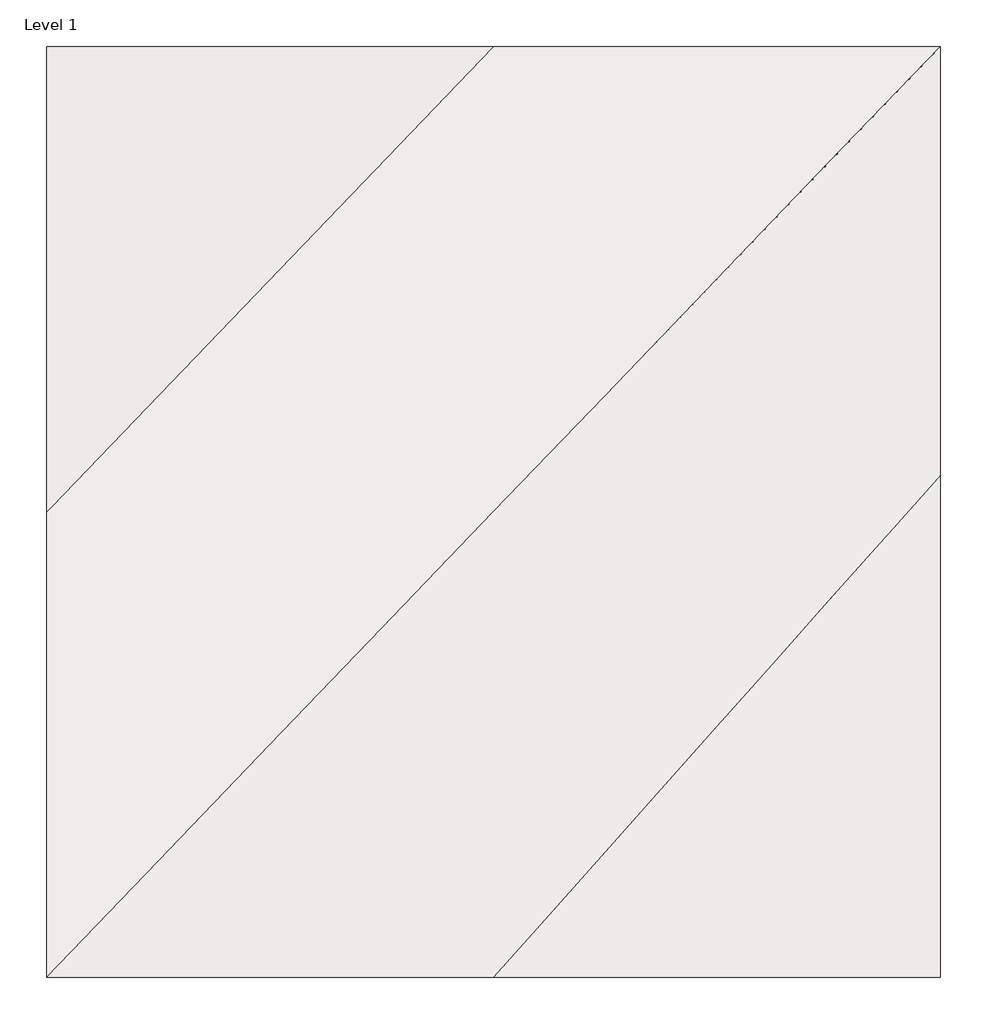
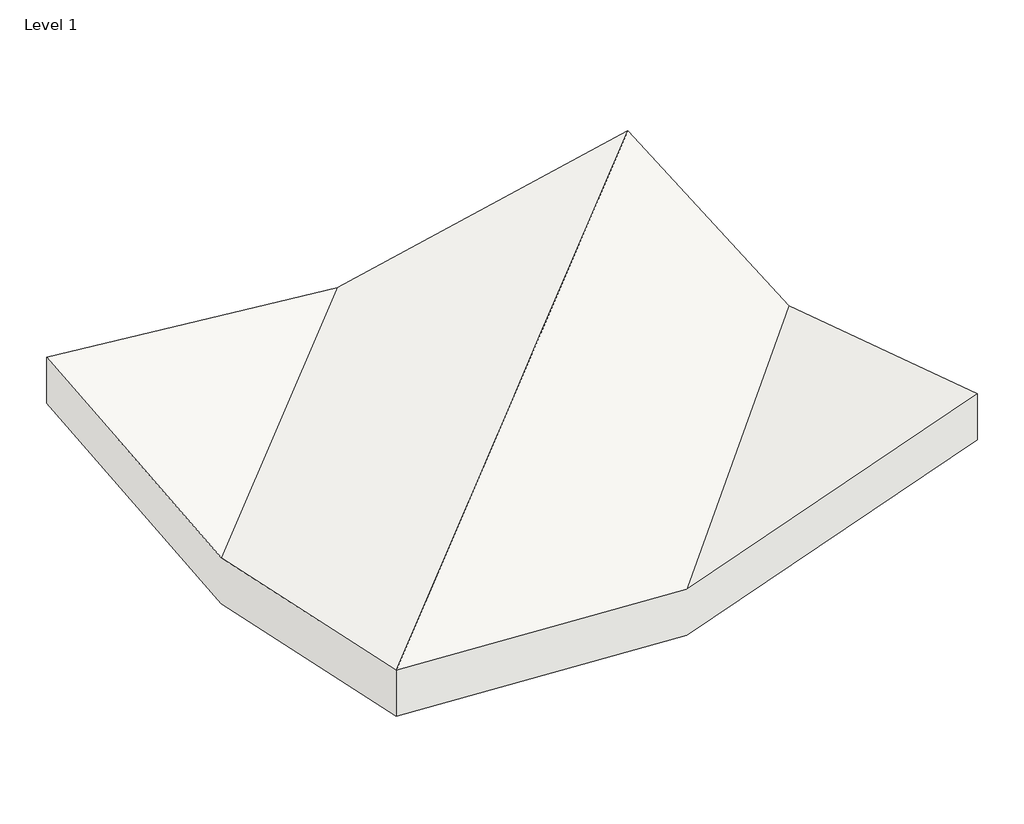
# One storey: 1 slab.
"""IFC4 building model written with IfcOpenShell, lengths in millimetres."""

from ifc_helpers import new_model, si_unit, frame, origin, place, context, project, spatial, element, save
from ifc_brep_helpers import plane_surface, spline_surface, advanced_brep

model = new_model("IFC4")

# Units and contexts
model_context = context("Model", 3, world=origin())
ifc_project = project(units=[si_unit("LENGTHUNIT", "METRE", prefix="MILLI")], contexts=[model_context])

# Site, building, storey
site = spatial("IfcSite", under=ifc_project)
building = spatial("IfcBuilding", under=site)
storey = spatial("IfcBuildingStorey", under=building, Name="Level 1", Elevation=0.0)

# Slab
placement = place(None, origin())
element("IfcSlab", 1, ObjectType="Generic - 12\"", at=placement, inside=storey, context=model_context, shape_type="AdvancedBrep", body=[
    advanced_brep(
    [(-10059.0212231, 7862.6564345, -863.6), (-10059.0212231, 7862.6564345, -558.8), (-10059.0212231, 6107.0084345, -660.4), (-10059.0212231, 4052.6564345, 0.0), (-10059.0212231, 4052.6564345, -304.8), (-10059.0212231, 6107.0084345, -965.2), (-11887.8212231, 4052.6564345, -660.4), (-13716.6212231, 4052.6564345, -558.8), (-13716.6212231, 4052.6564345, -863.6), (-11887.8212231, 4052.6564345, -965.2), (-13716.6212231, 5957.6564345, -965.2), (-13716.6212231, 7862.6564345, -787.4), (-13716.6212231, 7862.6564345, -1092.2), (-13716.6212231, 5957.6564345, -1270.0), (-11887.8212231, 7862.6564345, -965.2), (-11887.8212231, 7862.6564345, -1270.0)],
    [
        (0, 1),
        (1, 2),
        (2, 3),
        (3, 4),
        (4, 5),
        (5, 0),
        (3, 6),
        (6, 7),
        (7, 8),
        (8, 9),
        (9, 4),
        (7, 10),
        (10, 11),
        (11, 12),
        (12, 13),
        (13, 8),
        (11, 14),
        (14, 1),
        (0, 15),
        (15, 12),
        (6, 2),
        (1, 7),
        (10, 14),
        (8, 0),
        (5, 9),
        (15, 13),
    ],
    [
        plane_surface(frame((-10059.0212231, 7862.6564345, -304.8), z_axis=(1.0, 0.0, 0.0), x_axis=(0.0, 0.0, 1.0))),
        plane_surface(frame((-10059.0212231, 4052.6564345, -304.8), z_axis=(0.0, -1.0, 0.0), x_axis=(0.0, 0.0, 1.0))),
        plane_surface(frame((-13716.6212231, 4052.6564345, -304.8), z_axis=(-1.0, 0.0, 0.0), x_axis=(0.0, 0.0, 1.0))),
        plane_surface(frame((-13716.6212231, 7862.6564345, -304.8), z_axis=(0.0, 1.0, 0.0), x_axis=(0.0, 0.0, 1.0))),
        spline_surface(1, 1, [[(-11887.8212231, 4052.6564345, -660.4), (-13716.6212231, 4052.6564345, -558.8)], [(-10059.0212231, 6107.0084345, -660.4), (-10059.0212231, 7862.6564345, -558.8)]], [2, 2], [2, 2], [0.0, 1.0], [0.0, 1.0]),
        plane_surface(frame((-13107.0212231, 7227.6564345, -905.9333333), z_axis=(0.0963511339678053, -0.09249708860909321, 0.9910402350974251), x_axis=(0.0, -0.9956726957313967, -0.09292945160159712))),
        plane_surface(frame((-12345.0212231, 6433.9064345, -762.0), z_axis=(-0.2123740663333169, 0.20387910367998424, 0.955683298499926), x_axis=(0.6925318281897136, 0.7213873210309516, 0.0))),
        plane_surface(frame((-10668.6212231, 4737.4404345, -440.2666667), z_axis=(-0.32510899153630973, 0.2894145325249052, 0.9003018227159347), x_axis=(0.0, 0.9520187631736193, -0.30603966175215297))),
        spline_surface(1, 1, [[(-11887.8212231, 4052.6564345, -965.2), (-10059.0212231, 6107.0084345, -965.2)], [(-13716.6212231, 4052.6564345, -863.6), (-10059.0212231, 7862.6564345, -863.6)]], [2, 2], [2, 2], [0.0, 1.0], [0.0, 1.0]),
        plane_surface(frame((-13107.0212231, 7227.6564345, -1210.7333333), z_axis=(-0.0963511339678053, 0.09249708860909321, -0.9910402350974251), x_axis=(0.0, -0.9956726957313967, -0.09292945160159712))),
        plane_surface(frame((-12345.0212231, 6433.9064345, -1066.8), z_axis=(0.2123740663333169, -0.20387910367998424, -0.955683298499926), x_axis=(0.6925318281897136, 0.7213873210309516, 0.0))),
        plane_surface(frame((-10668.6212231, 4737.4404345, -745.0666667), z_axis=(0.32510899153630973, -0.2894145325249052, -0.9003018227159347), x_axis=(0.0, 0.9520187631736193, -0.30603966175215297))),
    ],
    [
        (0, [[1, 2, 3, 4, 5, 6]]),
        (1, [[-4, 7, 8, 9, 10, 11]]),
        (2, [[-9, 12, 13, 14, 15, 16]]),
        (3, [[-14, 17, 18, -1, 19, 20]]),
        (4, [[-8, 21, -2, 22]]),
        (5, [[-13, 23, -17]]),
        (6, [[-22, -18, -23, -12]]),
        (7, [[-3, -21, -7]]),
        (8, [[24, -6, 25, -10]]),
        (9, [[-20, 26, -15]]),
        (10, [[-16, -26, -19, -24]]),
        (11, [[-11, -25, -5]]),
    ],
),
])

save(model, "model.ifc")
